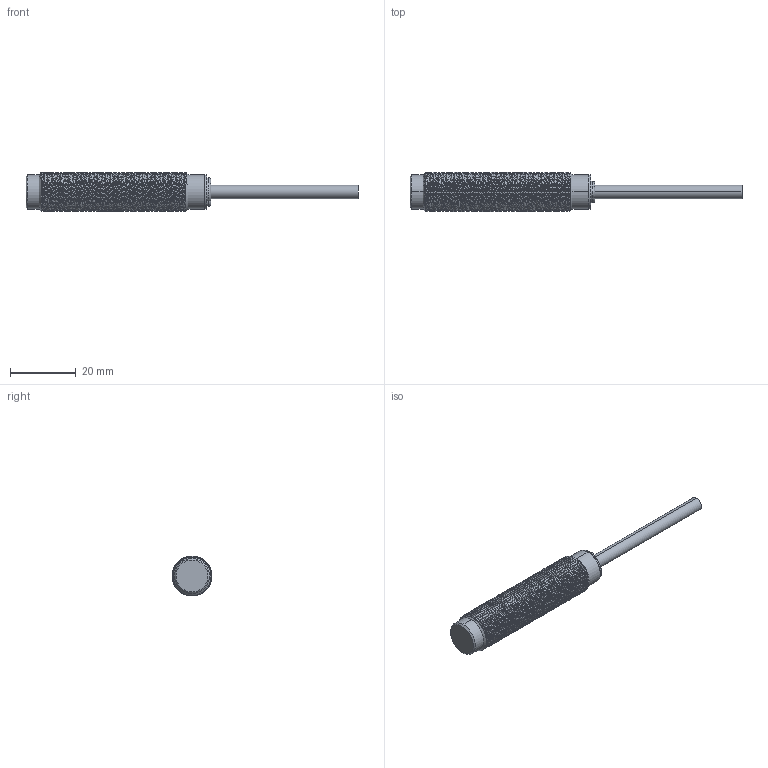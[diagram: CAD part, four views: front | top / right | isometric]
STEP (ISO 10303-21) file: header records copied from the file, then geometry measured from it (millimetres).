
FILE_DESCRIPTION((''),'2;1');
FILE_NAME('M12NOFLUSHCABLE_ASM','2020-10-28T',('Daisy.Wang'),(''),'CREO PARAMETRIC BY PTC INC, 2015480','CREO PARAMETRIC BY PTC INC, 2015480','');
FILE_SCHEMA(('CONFIG_CONTROL_DESIGN'));
Length unit declared in the file: millimetre
Products named in the file (13): MECK122; M12MYLAR; COPPER-FOIL-COIL; MAGNETIC; M12-COIL-SUPPORT; COIL-WITHCOPPER_ASM; M12CABLENOFLUSHPCB; ORING-M12CABLE; ORING-M12-CABLE; 58-200; 1MP7064-0_05; CABLE; M12NOFLUSHCABLE_ASM
Assembly tree (12 placements, depth 3):
  M12NOFLUSHCABLE_ASM
    MECK122
    M12MYLAR
    COIL-WITHCOPPER_ASM
      COPPER-FOIL-COIL
      MAGNETIC
      M12-COIL-SUPPORT
    M12CABLENOFLUSHPCB
    ORING-M12CABLE
    ORING-M12-CABLE
    58-200
    1MP7064-0_05
    CABLE
Bounding box: 100.65 x 12 x 12 mm (x, y, z)
Volume: 3100.7 mm3; surface area: 8050.8 mm2
Topology: 10 solids, 11 shells, 416 faces, 1067 edges, 683 vertices
Faces by surface type: cylinder 182, plane 91, bspline 63, torus 50, cone 30
Entity records: 35175 total; most frequent: CARTESIAN_POINT 25506, ORIENTED_EDGE 2122, DIRECTION 1725, EDGE_CURVE 1067, VERTEX_POINT 683, AXIS2_PLACEMENT_3D 679, EDGE_LOOP 442, FACE_OUTER_BOUND 416
